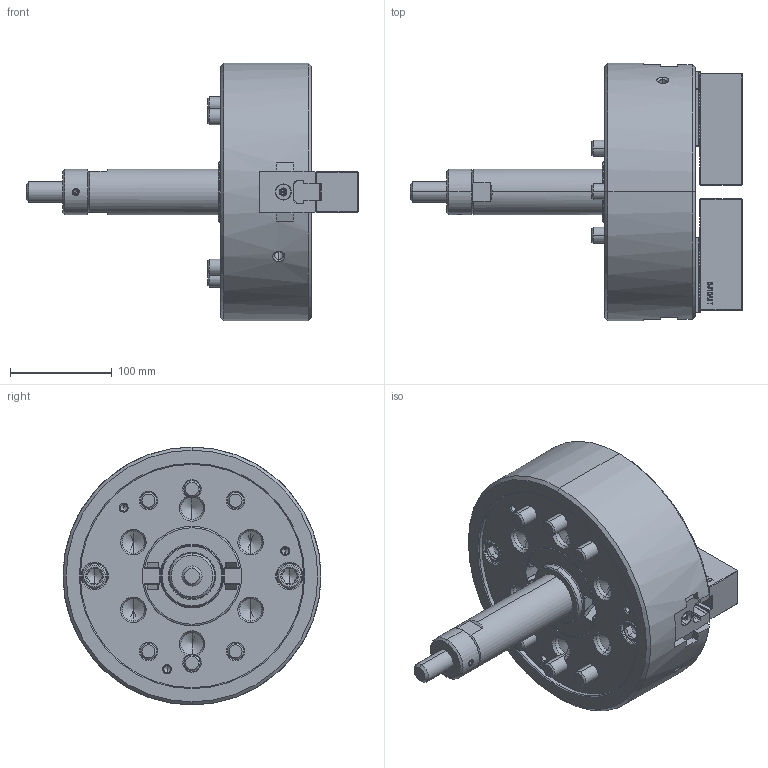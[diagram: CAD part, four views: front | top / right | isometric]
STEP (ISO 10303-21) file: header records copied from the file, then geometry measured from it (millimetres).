
FILE_DESCRIPTION (( 'STEP AP214' ), '1' );
FILE_NAME ('DT1_NLT10_OUTSIDE_VIEW_OC.STEP', '2026-03-23T07:10:03', ( '' ), ( '' ), 'SwSTEP 2.0', 'SolidWorks 2022', '' );
FILE_SCHEMA (( 'AUTOMOTIVE_DESIGN' ));
Length unit declared in the file: millimetre
Products named in the file (11): DT1_NLT10_DN^DT1_NLT10; DT1_NLT10_M5x12^DT1_NLT10; DT1_NLT10_BASE^DT1_NLT10; Copy of 61P335751^DT1_NLT10; DT1_NLT10_M16x85^DT1_NLT10; DT1_NLT10_OUTSIDE_VIEW_OC; DT1_NLT10_COVER^DT1_NLT10; DT1_NLT10_SOFTJAW^DT1_NLT10; DT1_NLT10_M12x35^DT1_NLT10; DT1_NLT10_TNUT^DT1_NLT10; DT1_NLT10_DRAWSCREW^DT1_NLT10
Assembly tree (23 placements, depth 2):
  DT1_NLT10_OUTSIDE_VIEW_OC
    DT1_NLT10_SOFTJAW^DT1_NLT10  x2
    DT1_NLT10_TNUT^DT1_NLT10  x2
    DT1_NLT10_COVER^DT1_NLT10
    DT1_NLT10_DRAWSCREW^DT1_NLT10
    Copy of 61P335751^DT1_NLT10
    DT1_NLT10_DN^DT1_NLT10
    DT1_NLT10_BASE^DT1_NLT10
    DT1_NLT10_M16x85^DT1_NLT10  x6
    DT1_NLT10_M12x35^DT1_NLT10  x4
    DT1_NLT10_M5x12^DT1_NLT10  x4
Bounding box: 327 x 254 x 254 mm (x, y, z)
Volume: 4688903 mm3; surface area: 461864.8 mm2
Topology: 23 solids, 27 shells, 4037 faces, 11395 edges, 7441 vertices
Faces by surface type: plane 2371, cylinder 1069, cone 375, bspline 174, torus 44, sphere 4
Entity records: 99990 total; most frequent: CARTESIAN_POINT 28452, ORIENTED_EDGE 16264, DIRECTION 12761, EDGE_CURVE 8132, VECTOR 5691, LINE 5691, VERTEX_POINT 5332, AXIS2_PLACEMENT_3D 3535
